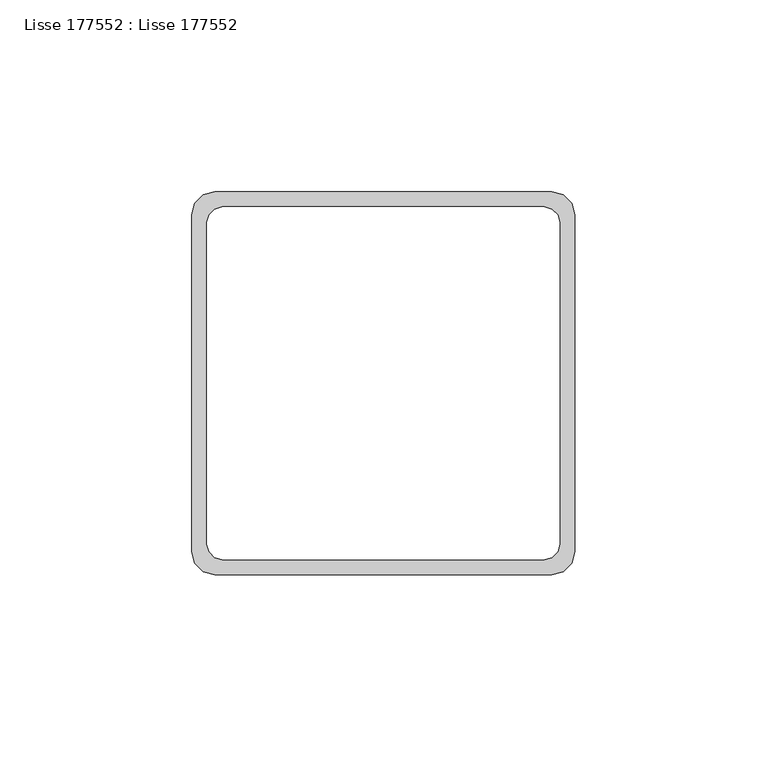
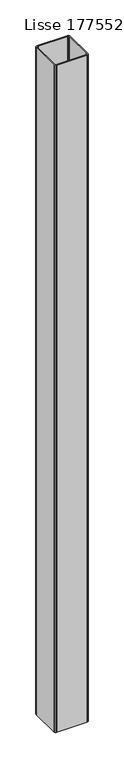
"""IFC4 building model written with IfcOpenShell, lengths in millimetres: beam geometry, Lisse 177552 : Lisse 177552."""

from ifc_helpers import new_model, si_unit, frame, origin, place, context, project, spatial, polyline, outline, extrude, source, transform, mapped, element, save


def lisse_177552_lisse_177552_ac394449(model_context):
    return source(origin(), model_context, "Body", "SweptSolid", [
        extrude(outline(polyline([(-80.0000001, -11606.0), (-80.0000001, -11694.0), (-80.8038477, -11697.0), (-83.0000001, -11699.1961524), (-86.0000001, -11700.0), (-174.0000001, -11700.0), (-177.0000001, -11699.1961524), (-179.1961526, -11697.0), (-180.0000001, -11694.0), (-180.0000001, -11606.0), (-179.1961526, -11603.0), (-177.0000001, -11600.8038476), (-174.0000001, -11600.0), (-86.0000001, -11600.0), (-83.0000001, -11600.8038476), (-80.8038477, -11603.0), (-80.0000001, -11606.0)]), holes=[polyline([(-84.0000001, -11692.0), (-84.0000001, -11608.0), (-84.5358985, -11606.0), (-86.0000001, -11604.5358984), (-88.0000001, -11604.0), (-172.0000001, -11604.0), (-174.0000001, -11604.5358984), (-175.4641017, -11606.0), (-176.0000001, -11608.0), (-176.0000001, -11692.0), (-175.4641017, -11694.0), (-174.0000001, -11695.4641016), (-172.0000001, -11696.0), (-88.0000001, -11696.0), (-86.0000001, -11695.4641016), (-84.5358985, -11694.0), (-84.0000001, -11692.0)])]), frame((0.0, 0.0, 2844.0), z_axis=(0.0, 0.0, 1.0), x_axis=(1.0, 0.0, 0.0)), (0.0, 0.0, 1.0), 2056.0),
    ])


if __name__ == "__main__":
    model = new_model("IFC4")
    model_context = context("Model", 3, world=origin())
    ifc_project = project(units=[si_unit("LENGTHUNIT", "METRE", prefix="MILLI")], contexts=[model_context])
    site = spatial("IfcSite", under=ifc_project)
    building = spatial("IfcBuilding", under=site)
    placement = place(None, origin())
    lisse_177552_lisse_177552_shape = lisse_177552_lisse_177552_ac394449(model_context)
    element("IfcBeam", 1, ObjectType="Lisse 177552 : Lisse 177552", at=placement, inside=building, context=model_context, shape_type="MappedRepresentation", body=[
        mapped(lisse_177552_lisse_177552_shape, transform((0.0, 0.0, 0.0), x_axis=(1.0, 0.0, 0.0), y_axis=(0.0, 1.0, 0.0), z_axis=(0.0, 0.0, 1.0))),
    ])
    save(model, "model.ifc")
